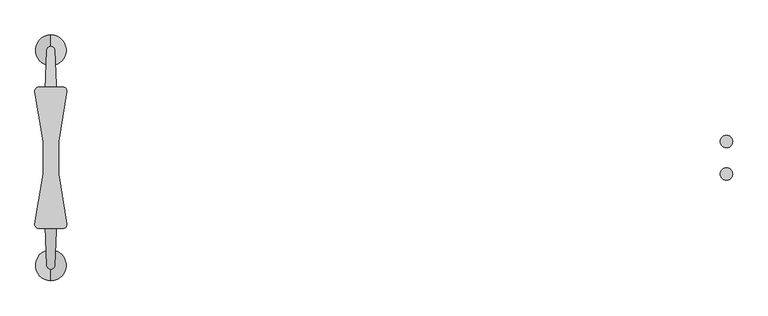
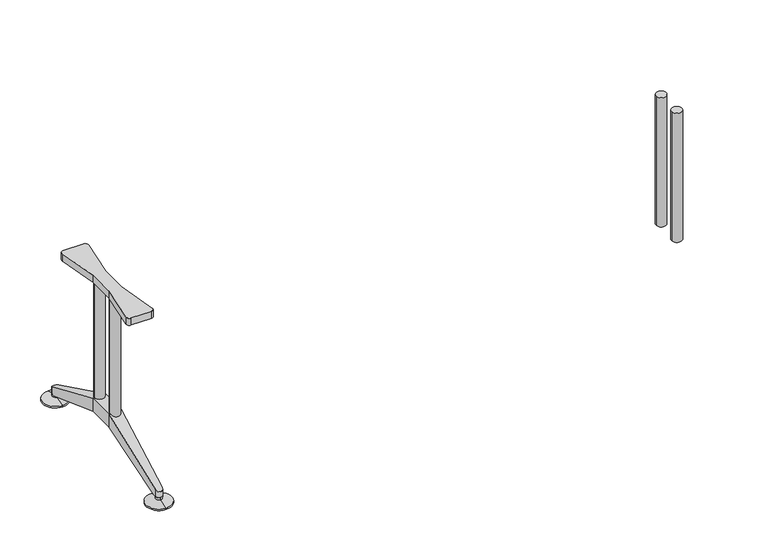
"""IFC4 building model written with IfcOpenShell, lengths in millimetres: furniture geometry, Furniture_Wilkhahn_620-24_Logon Table-Rectangle : Logon 620/23_2800L x 2600W x 730H."""

from ifc_helpers import new_model, si_unit, point, frame, frame_2d, origin, place, context, project, spatial, polyline, circle_curve, ellipse_curve, trimmed, segment, composite_curve, outline, extrude, source, transform, mapped, element, save
from ifc_brep_helpers import plane_surface, cylinder_surface, revolved_surface, advanced_brep


def furniture_f2a24da4(model_context):
    return source(origin(), model_context, "Body", "SolidModel", [
        extrude(outline(composite_curve([segment(trimmed(circle_curve(frame_2d((1100.0, -1096.0488456)), 20.0), [point((1080.0, -1096.0488456))], [point((1120.0, -1096.0488456))], False, "CARTESIAN"), True, "CONTINUOUS"), segment(trimmed(circle_curve(frame_2d((1100.0, -1096.0488456)), 20.0), [point((1120.0, -1096.0488456))], [point((1080.0, -1096.0488456))], False, "CARTESIAN"), True, "CONTINUOUS")], self_intersect=False)), frame((0.0, 0.0, 140.0), z_axis=(0.0, 0.0, 1.0), x_axis=(1.0, 0.0, 0.0)), (0.0, 0.0, 1.0), 535.0),
        extrude(outline(composite_curve([segment(trimmed(circle_curve(frame_2d((1100.0, -1202.0488456)), 20.0), [point((1080.0, -1202.0488456))], [point((1120.0, -1202.0488456))], False, "CARTESIAN"), True, "CONTINUOUS"), segment(trimmed(circle_curve(frame_2d((1100.0, -1202.0488456)), 20.0), [point((1120.0, -1202.0488456))], [point((1080.0, -1202.0488456))], False, "CARTESIAN"), True, "CONTINUOUS")], self_intersect=False)), frame((0.0, 0.0, 140.0), z_axis=(0.0, 0.0, 1.0), x_axis=(1.0, 0.0, 0.0)), (0.0, 0.0, 1.0), 535.0),
        advanced_brep(
        [(-1100.0, -798.5244836, 0.0), (-1100.0, -748.5244836, 0.0), (-1100.0, -848.5244836, 0.0), (-1100.0, -748.5244836, 6.0), (-1100.0, -848.5244836, 6.0), (-1100.0, -786.0488456, 17.0), (-1100.0, -811.0001216, 17.0), (-1100.0, -786.0488456, 27.0), (-1100.0, -811.0001216, 27.0), (-1100.0, -798.5244836, 27.0)],
        [
            (0, 1),
            (1, 2, circle_curve(frame((-1100.0, -798.5244836, 0.0), z_axis=(0.0, 0.0, -1.0), x_axis=(0.0, 1.0000000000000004, 0.0)), 50.0)),
            (2, 0),
            (2, 1, circle_curve(frame((-1100.0, -798.5244836, 0.0), z_axis=(0.0, 0.0, -1.0), x_axis=(0.0, 1.0000000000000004, 0.0)), 50.0)),
            (1, 3),
            (3, 4, circle_curve(frame((-1100.0, -798.5244836, 6.0), z_axis=(0.0, 0.0, -1.0), x_axis=(0.0, 1.0000000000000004, 0.0)), 50.0)),
            (4, 2),
            (4, 3, circle_curve(frame((-1100.0, -798.5244836, 6.0), z_axis=(0.0, 0.0, -1.0), x_axis=(0.0, 1.0000000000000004, 0.0)), 50.0)),
            (3, 5),
            (5, 6, circle_curve(frame((-1100.0, -798.5244836, 17.0), z_axis=(0.0, 0.0, -1.0), x_axis=(0.0, 1.0000000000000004, 0.0)), 12.475638)),
            (6, 4),
            (6, 5, circle_curve(frame((-1100.0, -798.5244836, 17.0), z_axis=(0.0, 0.0, -1.0), x_axis=(0.0, 1.0000000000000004, 0.0)), 12.475638)),
            (5, 7),
            (7, 8, circle_curve(frame((-1100.0, -798.5244836, 27.0), z_axis=(0.0, 0.0, -1.0), x_axis=(0.0, 1.0000000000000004, 0.0)), 12.475638)),
            (8, 6),
            (8, 7, circle_curve(frame((-1100.0, -798.5244836, 27.0), z_axis=(0.0, 0.0, -1.0), x_axis=(0.0, 1.0000000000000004, 0.0)), 12.475638)),
            (7, 9),
            (9, 8),
        ],
        [
            plane_surface(frame((-1100.0, -798.5244836, 0.0), z_axis=(0.0, 0.0, -1.0), x_axis=(0.0, 1.0, 0.0))),
            cylinder_surface(frame((-1100.0, -798.5244836, 27.0), z_axis=(0.0, 0.0, -1.0), x_axis=(0.0, 1.0000000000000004, 0.0)), 50.0),
            revolved_surface(polyline([(-1100.0, -786.0488456, 17.0), (-1100.0, -748.5244836, 6.0)]), (-1100.0, -798.5244836, 27.0), (0.0, 0.0, -1.0)),
            cylinder_surface(frame((-1100.0, -798.5244836, 27.0), z_axis=(0.0, 0.0, -1.0), x_axis=(0.0, 1.0000000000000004, 0.0)), 12.475638),
            plane_surface(frame((-1100.0, -798.5244836, 27.0), z_axis=(0.0, 0.0, 1.0), x_axis=(0.0, 1.0, 0.0))),
        ],
        [
            (0, [[1, 2, 3]]),
            (0, [[-3, 4, -1]]),
            (1, [[-2, 5, 6, 7]]),
            (1, [[-4, -7, 8, -5]]),
            (2, [[-6, 9, 10, 11]]),
            (2, [[-8, -11, 12, -9]]),
            (3, [[-10, 13, 14, 15]]),
            (3, [[-12, -15, 16, -13]]),
            (4, [[-14, 17, 18]]),
            (4, [[-16, -18, -17]]),
        ],
    ),
        advanced_brep(
        [(-1100.0, -1449.5732076, 0.0), (-1100.0, -1549.5732076, 0.0), (-1100.0, -1499.5732076, 0.0), (-1100.0, -1449.5732076, 6.0), (-1100.0, -1549.5732076, 6.0), (-1100.0, -1487.0975696, 17.0), (-1100.0, -1512.0488456, 17.0), (-1100.0, -1487.0975696, 27.0), (-1100.0, -1512.0488456, 27.0), (-1100.0, -1499.5732076, 27.0)],
        [
            (0, 1, circle_curve(frame((-1100.0, -1499.5732076, 0.0), z_axis=(0.0, 0.0, -1.0), x_axis=(0.0, -1.0000000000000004, 0.0)), 50.0)),
            (1, 2),
            (2, 0),
            (1, 0, circle_curve(frame((-1100.0, -1499.5732076, 0.0), z_axis=(0.0, 0.0, -1.0), x_axis=(0.0, -1.0000000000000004, 0.0)), 50.0)),
            (3, 4, circle_curve(frame((-1100.0, -1499.5732076, 6.0), z_axis=(0.0, 0.0, -1.0), x_axis=(0.0, -1.0000000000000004, 0.0)), 50.0)),
            (4, 1),
            (0, 3),
            (4, 3, circle_curve(frame((-1100.0, -1499.5732076, 6.0), z_axis=(0.0, 0.0, -1.0), x_axis=(0.0, -1.0000000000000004, 0.0)), 50.0)),
            (5, 6, circle_curve(frame((-1100.0, -1499.5732076, 17.0), z_axis=(0.0, 0.0, -1.0), x_axis=(0.0, -1.0000000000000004, 0.0)), 12.475638)),
            (6, 4),
            (3, 5),
            (6, 5, circle_curve(frame((-1100.0, -1499.5732076, 17.0), z_axis=(0.0, 0.0, -1.0), x_axis=(0.0, -1.0000000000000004, 0.0)), 12.475638)),
            (7, 8, circle_curve(frame((-1100.0, -1499.5732076, 27.0), z_axis=(0.0, 0.0, -1.0), x_axis=(0.0, -1.0000000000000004, 0.0)), 12.475638)),
            (8, 6),
            (5, 7),
            (8, 7, circle_curve(frame((-1100.0, -1499.5732076, 27.0), z_axis=(0.0, 0.0, -1.0), x_axis=(0.0, -1.0000000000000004, 0.0)), 12.475638)),
            (9, 8),
            (7, 9),
        ],
        [
            plane_surface(frame((-1100.0, -1499.5732076, 0.0), z_axis=(0.0, 0.0, -1.0), x_axis=(0.0, -1.0, 0.0))),
            cylinder_surface(frame((-1100.0, -1499.5732076, 27.0), z_axis=(0.0, 0.0, 1.0), x_axis=(0.0, -1.0000000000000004, 0.0)), 50.0),
            revolved_surface(polyline([(-1100.0, -1549.5732076, 6.0), (-1100.0, -1512.0488456, 17.0)]), (-1100.0, -1499.5732076, 27.0), (0.0, 0.0, 1.0)),
            cylinder_surface(frame((-1100.0, -1499.5732076, 27.0), z_axis=(0.0, 0.0, 1.0), x_axis=(0.0, -1.0000000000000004, 0.0)), 12.475638),
            plane_surface(frame((-1100.0, -1499.5732076, 27.0), z_axis=(0.0, 0.0, 1.0), x_axis=(0.0, -1.0, 0.0))),
        ],
        [
            (0, [[1, 2, 3]]),
            (0, [[4, -3, -2]]),
            (1, [[5, 6, -1, 7]]),
            (1, [[8, -7, -4, -6]]),
            (2, [[9, 10, -5, 11]]),
            (2, [[12, -11, -8, -10]]),
            (3, [[13, 14, -9, 15]]),
            (3, [[16, -15, -12, -14]]),
            (4, [[17, -13, 18]]),
            (4, [[-18, -16, -17]]),
        ],
    ),
        extrude(outline(composite_curve([segment(polyline([(-1125.0, -1096.0488456), (-1151.7160071, -932.9890778)]), True, "CONTINUOUS"), segment(trimmed(circle_curve(frame_2d((-1139.8739001, -931.0488456)), 12.0), [point((-1151.7160071, -932.9890778))], [point((-1139.8739001, -919.0488456))], False, "CARTESIAN"), True, "CONTINUOUS"), segment(polyline([(-1139.8739001, -919.0488456), (-1060.1260999, -919.0488456)]), True, "CONTINUOUS"), segment(trimmed(circle_curve(frame_2d((-1060.1260999, -931.0488456)), 12.0), [point((-1060.1260999, -919.0488456))], [point((-1048.2839929, -932.9890778))], False, "CARTESIAN"), True, "CONTINUOUS"), segment(polyline([(-1048.2839929, -932.9890778), (-1075.0, -1096.0488456), (-1075.0, -1202.0488456), (-1048.2839929, -1365.1086133)]), True, "CONTINUOUS"), segment(trimmed(circle_curve(frame_2d((-1060.1260999, -1367.0488456)), 12.0), [point((-1048.2839929, -1365.1086133))], [point((-1060.1260999, -1379.0488456))], False, "CARTESIAN"), True, "CONTINUOUS"), segment(polyline([(-1060.1260999, -1379.0488456), (-1139.8739001, -1379.0488456)]), True, "CONTINUOUS"), segment(trimmed(circle_curve(frame_2d((-1139.8739001, -1367.0488456)), 12.0), [point((-1139.8739001, -1379.0488456))], [point((-1151.7160071, -1365.1086133))], False, "CARTESIAN"), True, "CONTINUOUS"), segment(polyline([(-1151.7160071, -1365.1086133), (-1125.0, -1202.0488456), (-1125.0, -1096.0488456)]), True, "CONTINUOUS")], self_intersect=False)), frame((0.0, 0.0, 675.0), z_axis=(0.0, 0.0, 1.0), x_axis=(1.0, 0.0, 0.0)), (0.0, 0.0, 1.0), 29.0),
        advanced_brep(
        [(-1075.0, -1202.0488456, 140.0), (-1075.0, -1096.0488456, 140.0), (-1075.0, -1096.0488456, 195.0), (-1075.0, -1202.0488456, 195.0), (-1125.0, -1202.0488456, 195.0), (-1125.0, -1096.0488456, 195.0), (-1125.0, -1096.0488456, 140.0), (-1125.0, -1202.0488456, 140.0), (-1113.4930419, -1487.0975696, 27.0), (-1086.5069581, -1487.0975696, 27.0), (-1087.0105795, -1499.5732076, 27.0), (-1100.0, -1512.0488456, 27.0), (-1112.9894205, -1499.5732076, 27.0), (-1112.9894205, -1499.5732076, 56.4159205), (-1100.0, -1512.0488456, 50.6048844), (-1087.0105795, -1499.5732076, 56.4159205), (-1112.9894205, -798.5244836, 56.4159205), (-1112.9894205, -798.5244836, 27.0), (-1113.4930419, -811.0001216, 27.0), (-1087.0105795, -798.5244836, 27.0), (-1087.0105795, -798.5244836, 56.4159205), (-1086.5069581, -811.0001216, 27.0), (-1100.0, -786.0488456, 27.0), (-1100.0, -786.0488456, 50.6048844)],
        [
            (0, 1),
            (1, 2),
            (2, 3),
            (3, 0),
            (4, 5),
            (5, 6),
            (6, 7),
            (7, 4),
            (8, 9),
            (9, 10),
            (10, 11, circle_curve(frame((-1100.0, -1499.0488456, 27.0), z_axis=(0.0, 0.0, -1.0), x_axis=(-1.0000000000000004, 0.0, 0.0)), 13.0)),
            (11, 12, circle_curve(frame((-1100.0, -1499.0488456, 27.0), z_axis=(0.0, 0.0, -1.0), x_axis=(-1.0000000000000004, 0.0, 0.0)), 13.0)),
            (12, 8),
            (3, 4),
            (4, 13),
            (13, 14, ellipse_curve(frame((-1100.0, -1499.0488456, 56.6601634), z_axis=(0.0, -0.42223330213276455, 0.9064871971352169), x_axis=(0.0, -0.9064871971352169, -0.42223330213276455)), 14.341074, 13.0)),
            (14, 15, ellipse_curve(frame((-1100.0, -1499.0488456, 56.6601634), z_axis=(0.0, -0.42223330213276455, 0.9064871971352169), x_axis=(0.0, -0.9064871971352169, -0.42223330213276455)), 14.341074, 13.0)),
            (15, 3),
            (7, 0),
            (0, 9),
            (8, 7),
            (16, 17),
            (17, 18),
            (18, 6),
            (5, 16),
            (19, 20),
            (20, 2),
            (1, 21),
            (21, 19),
            (2, 5),
            (6, 1),
            (19, 22, circle_curve(frame((-1100.0, -799.0488456, 27.0), z_axis=(0.0, 0.0, 1.0), x_axis=(-1.0000000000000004, 0.0, 0.0)), 13.0)),
            (22, 17, circle_curve(frame((-1100.0, -799.0488456, 27.0), z_axis=(0.0, 0.0, 1.0), x_axis=(-1.0000000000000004, 0.0, 0.0)), 13.0)),
            (16, 23, ellipse_curve(frame((-1100.0, -799.0488456, 56.6601634), z_axis=(0.0, -0.42223330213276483, -0.906487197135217), x_axis=(0.0, 0.906487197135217, -0.42223330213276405)), 14.341074, 13.0)),
            (23, 20, ellipse_curve(frame((-1100.0, -799.0488456, 56.6601634), z_axis=(0.0, -0.42223330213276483, -0.906487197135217), x_axis=(0.0, 0.906487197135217, -0.42223330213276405)), 14.341074, 13.0)),
            (15, 10),
            (13, 12),
            (21, 18),
        ],
        [
            plane_surface(frame((-1075.0, -1495.3023057, 27.0), z_axis=(1.0, 0.0, 0.0), x_axis=(0.0, 1.0, 0.0))),
            plane_surface(frame((-1125.0, -1495.3023057, 27.0), z_axis=(-1.0, 0.0, 0.0), x_axis=(0.0, -1.0, 0.0))),
            plane_surface(frame((-1125.0, -1487.0975696, 27.0), z_axis=(0.0, 0.0, -1.0), x_axis=(1.0, 0.0, 0.0))),
            plane_surface(frame((-1125.0, -1512.0488456, 50.6048844), z_axis=(0.0, -0.42223330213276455, 0.9064871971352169), x_axis=(1.0, 0.0, 0.0))),
            plane_surface(frame((-1125.0, -1202.0488456, 140.0), z_axis=(0.0, 0.36852267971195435, -0.9296187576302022), x_axis=(1.0, 0.0, 0.0))),
            plane_surface(frame((-1125.0, -1096.0488456, 195.0), z_axis=(-0.9991861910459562, 0.04033553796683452, 0.0), x_axis=(0.0, 0.0, -1.0))),
            plane_surface(frame((-1087.0105795, -798.5244836, 195.0), z_axis=(0.9991861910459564, 0.0403355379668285, 0.0), x_axis=(0.0, 0.0, -1.0))),
            plane_surface(frame((-1125.0, -1202.0488456, 195.0), z_axis=(0.0, 0.0, 1.0), x_axis=(1.0, 0.0, 0.0))),
            plane_surface(frame((-1125.0, -1096.0488456, 140.0), z_axis=(0.0, 0.0, -1.0), x_axis=(1.0, 0.0, 0.0))),
            cylinder_surface(frame((-1100.0, -799.0488456, 0.0), z_axis=(0.0, 0.0, -1.0), x_axis=(-1.0000000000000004, 0.0, 0.0)), 13.0),
            plane_surface(frame((-1075.0, -1202.0488456, 195.0), z_axis=(0.9991861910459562, -0.040335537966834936, 0.0), x_axis=(0.0, 0.0, -1.0))),
            cylinder_surface(frame((-1100.0, -1499.0488456, -14.190167), z_axis=(0.0, 0.0, -1.0), x_axis=(-1.0000000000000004, 0.0, 0.0)), 13.0),
            plane_surface(frame((-1112.9894205, -1499.5732076, 195.0), z_axis=(-0.9991861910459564, -0.04033553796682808, 0.0), x_axis=(0.0, 0.0, -1.0))),
            plane_surface(frame((-1125.0, -1096.0488456, 195.0), z_axis=(0.0, 0.4222333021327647, 0.9064871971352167), x_axis=(1.0, 0.0, 0.0))),
            plane_surface(frame((-1125.0, -786.0488456, 27.0), z_axis=(0.0, 0.0, -1.0), x_axis=(1.0, 0.0, 0.0))),
            plane_surface(frame((-1125.0, -811.0001216, 27.0), z_axis=(0.0, -0.36852267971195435, -0.929618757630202), x_axis=(1.0, 0.0, 0.0))),
        ],
        [
            (0, [[1, 2, 3, 4]]),
            (1, [[5, 6, 7, 8]]),
            (2, [[9, 10, 11, 12, 13]]),
            (3, [[14, 15, 16, 17, 18]]),
            (4, [[19, 20, -9, 21]]),
            (5, [[22, 23, 24, -6, 25]]),
            (6, [[26, 27, -2, 28, 29]]),
            (7, [[-3, 30, -5, -14]]),
            (8, [[-1, -19, -7, 31]]),
            (9, [[-26, 32, 33, -22, 34, 35]]),
            (10, [[36, -10, -20, -4, -18]]),
            (11, [[-36, -17, -16, 37, -12, -11]]),
            (12, [[-37, -15, -8, -21, -13]]),
            (13, [[-30, -27, -35, -34, -25]]),
            (14, [[38, -23, -33, -32, -29]]),
            (15, [[-31, -24, -38, -28]]),
        ],
    ),
        extrude(outline(composite_curve([segment(trimmed(circle_curve(frame_2d((-1100.0, -1096.0488456)), 20.0), [point((-1080.0, -1096.0488456))], [point((-1120.0, -1096.0488456))], False, "CARTESIAN"), True, "CONTINUOUS"), segment(trimmed(circle_curve(frame_2d((-1100.0, -1096.0488456)), 20.0), [point((-1120.0, -1096.0488456))], [point((-1080.0, -1096.0488456))], False, "CARTESIAN"), True, "CONTINUOUS")], self_intersect=False)), frame((0.0, 0.0, 140.0), z_axis=(0.0, 0.0, 1.0), x_axis=(1.0, 0.0, 0.0)), (0.0, 0.0, 1.0), 535.0),
        extrude(outline(composite_curve([segment(trimmed(circle_curve(frame_2d((-1100.0, -1202.0488456)), 20.0), [point((-1080.0, -1202.0488456))], [point((-1120.0, -1202.0488456))], False, "CARTESIAN"), True, "CONTINUOUS"), segment(trimmed(circle_curve(frame_2d((-1100.0, -1202.0488456)), 20.0), [point((-1120.0, -1202.0488456))], [point((-1080.0, -1202.0488456))], False, "CARTESIAN"), True, "CONTINUOUS")], self_intersect=False)), frame((0.0, 0.0, 140.0), z_axis=(0.0, 0.0, 1.0), x_axis=(1.0, 0.0, 0.0)), (0.0, 0.0, 1.0), 535.0),
    ])


if __name__ == "__main__":
    model = new_model("IFC4")
    model_context = context("Model", 3, world=origin())
    ifc_project = project(units=[si_unit("LENGTHUNIT", "METRE", prefix="MILLI")], contexts=[model_context])
    site = spatial("IfcSite", under=ifc_project)
    building = spatial("IfcBuilding", under=site)
    placement = place(None, origin())
    furniture_shape = furniture_f2a24da4(model_context)
    element("IfcFurniture", 1, ObjectType="Furniture_Wilkhahn_620-24_Logon Table-Rectangle : Logon 620/23_2800L x 2600W x 730H", at=placement, inside=building, context=model_context, shape_type="MappedRepresentation", body=[
        mapped(furniture_shape, transform((0.0, 0.0, 0.0), x_axis=(1.0, 0.0, 0.0), y_axis=(0.0, 1.0, 0.0), z_axis=(0.0, 0.0, 1.0))),
    ])
    save(model, "model.ifc")
